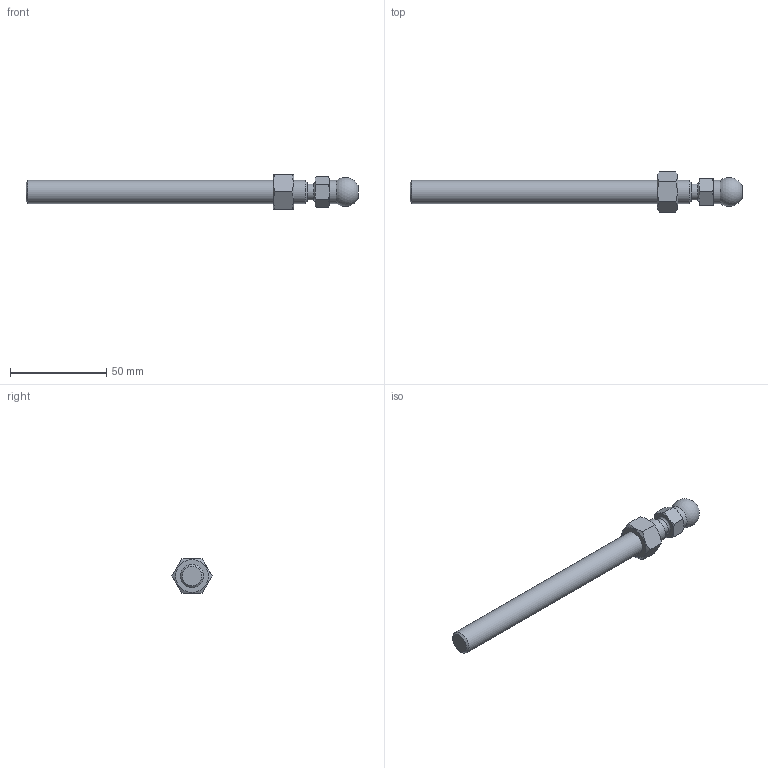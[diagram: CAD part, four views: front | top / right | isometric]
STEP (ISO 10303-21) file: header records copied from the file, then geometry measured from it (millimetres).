
FILE_DESCRIPTION(('STEP AP203'), '1');
FILE_NAME('A00020.112150', '', ('UNSPECIFIED'), ('UNSPECIFIED'), 'C3D Converter', 'C3D Toolkit', '');
FILE_SCHEMA(('CONFIG_CONTROL_DESIGN'));
Length unit declared in the file: millimetre
Products named in the file (2): A00020.112150
Assembly tree (1 placements, depth 2):
  A00020.112150
    (unnamed)
Bounding box: 172.3 x 20.78 x 18 mm (x, y, z)
Volume: 21954.2 mm3; surface area: 8280.4 mm2
Topology: 2 solids, 2 shells, 43 faces, 88 edges, 52 vertices
Faces by surface type: plane 19, cone 18, cylinder 4, torus 1, sphere 1
Full cylindrical faces by diameter (mm): 8.3 x1, 10.647 x1, 12 x2
Entity records: 2211 total; most frequent: CARTESIAN_POINT 1309, DIRECTION 158, ORIENTED_EDGE 152, EDGE_CURVE 76, AXIS2_PLACEMENT_3D 73, EDGE_LOOP 60, VERTEX_POINT 52, ADVANCED_FACE 43
